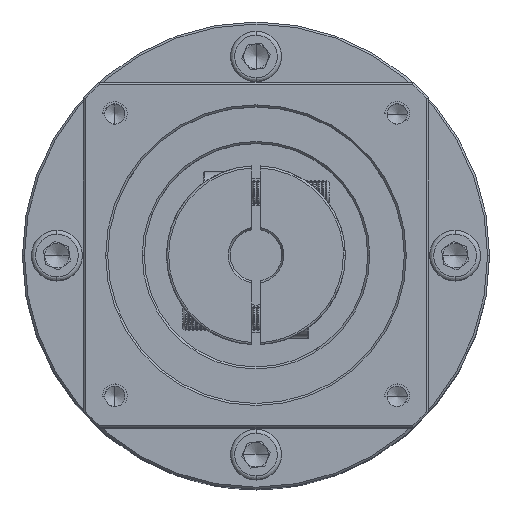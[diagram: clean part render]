
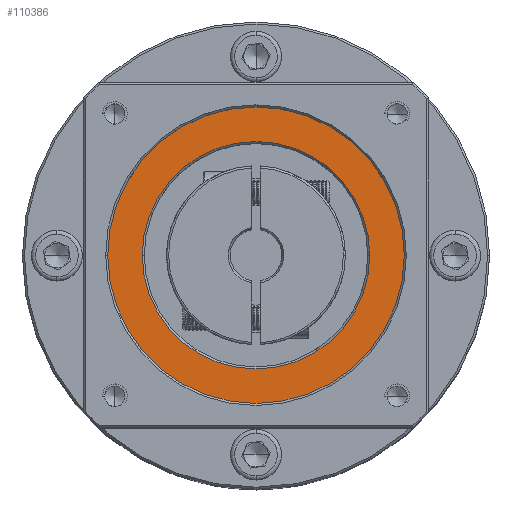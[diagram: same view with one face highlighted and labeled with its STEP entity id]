
A CAD part, top view. The second image highlights one B-rep face of the part: STEP entity #110386.
In plain terms, the highlighted planar face has unit normal (0, 0, 1).
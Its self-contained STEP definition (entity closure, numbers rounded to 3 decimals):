
#1637 = CARTESIAN_POINT ( 'NONE',  ( 34.642, 18.258, 111.411 ) ) ;
#13409 = AXIS2_PLACEMENT_3D ( 'NONE', #117360, #20523, #67840 ) ;
#20523 = DIRECTION ( 'NONE',  ( 0., 0., 1. ) ) ;
#20708 = DIRECTION ( 'NONE',  ( 0., 0., 1. ) ) ;
#25145 = CARTESIAN_POINT ( 'NONE',  ( 6.642, 18.258, 111.411 ) ) ;
#26004 = AXIS2_PLACEMENT_3D ( 'NONE', #97773, #39799, #118000 ) ;
#26592 = FACE_BOUND ( 'NONE', #100360, .T. ) ;
#27064 = ORIENTED_EDGE ( 'NONE', *, *, #101276, .T. ) ;
#28631 = EDGE_CURVE ( 'NONE', #88147, #106073, #118027, .T. ) ;
#29547 = EDGE_LOOP ( 'NONE', ( #27064, #112093 ) ) ;
#29596 = PLANE ( 'NONE',  #104847 ) ;
#33547 = DIRECTION ( 'NONE',  ( 1., 0., 0. ) ) ;
#34393 = DIRECTION ( 'NONE',  ( 0., 0., 1. ) ) ;
#37134 = AXIS2_PLACEMENT_3D ( 'NONE', #25145, #54650, #121164 ) ;
#38215 = CARTESIAN_POINT ( 'NONE',  ( -21.358, 18.258, 111.411 ) ) ;
#39799 = DIRECTION ( 'NONE',  ( 0., 0., -1. ) ) ;
#42914 = EDGE_CURVE ( 'NONE', #44803, #98326, #119595, .T. ) ;
#44803 = VERTEX_POINT ( 'NONE', #68114 ) ;
#45353 = CIRCLE ( 'NONE', #37134, 28. ) ;
#54650 = DIRECTION ( 'NONE',  ( 0., 0., -1. ) ) ;
#58337 = FACE_OUTER_BOUND ( 'NONE', #29547, .T. ) ;
#58672 = ORIENTED_EDGE ( 'NONE', *, *, #28631, .T. ) ;
#59135 = CARTESIAN_POINT ( 'NONE',  ( 6.642, 18.258, 111.411 ) ) ;
#67286 = ORIENTED_EDGE ( 'NONE', *, *, #86422, .T. ) ;
#67840 = DIRECTION ( 'NONE',  ( 1., 0., 0. ) ) ;
#68114 = CARTESIAN_POINT ( 'NONE',  ( -29.858, 18.258, 111.411 ) ) ;
#71939 = CARTESIAN_POINT ( 'NONE',  ( 6.642, 18.258, 111.411 ) ) ;
#77719 = DIRECTION ( 'NONE',  ( 1., 0., 0. ) ) ;
#80198 = CIRCLE ( 'NONE', #13409, 36.5 ) ;
#86422 = EDGE_CURVE ( 'NONE', #106073, #88147, #45353, .T. ) ;
#88147 = VERTEX_POINT ( 'NONE', #1637 ) ;
#97773 = CARTESIAN_POINT ( 'NONE',  ( 6.642, 18.258, 111.411 ) ) ;
#98326 = VERTEX_POINT ( 'NONE', #114822 ) ;
#100360 = EDGE_LOOP ( 'NONE', ( #58672, #67286 ) ) ;
#101276 = EDGE_CURVE ( 'NONE', #98326, #44803, #80198, .T. ) ;
#104847 = AXIS2_PLACEMENT_3D ( 'NONE', #59135, #20708, #77719 ) ;
#106073 = VERTEX_POINT ( 'NONE', #38215 ) ;
#110386 = ADVANCED_FACE ( 'NONE', ( #58337, #26592 ), #29596, .T. ) ;
#112093 = ORIENTED_EDGE ( 'NONE', *, *, #42914, .T. ) ;
#113360 = AXIS2_PLACEMENT_3D ( 'NONE', #71939, #34393, #33547 ) ;
#114822 = CARTESIAN_POINT ( 'NONE',  ( 43.142, 18.258, 111.411 ) ) ;
#117360 = CARTESIAN_POINT ( 'NONE',  ( 6.642, 18.258, 111.411 ) ) ;
#118000 = DIRECTION ( 'NONE',  ( 1., 0., 0. ) ) ;
#118027 = CIRCLE ( 'NONE', #26004, 28. ) ;
#119595 = CIRCLE ( 'NONE', #113360, 36.5 ) ;
#121164 = DIRECTION ( 'NONE',  ( 1., 0., 0. ) ) ;
